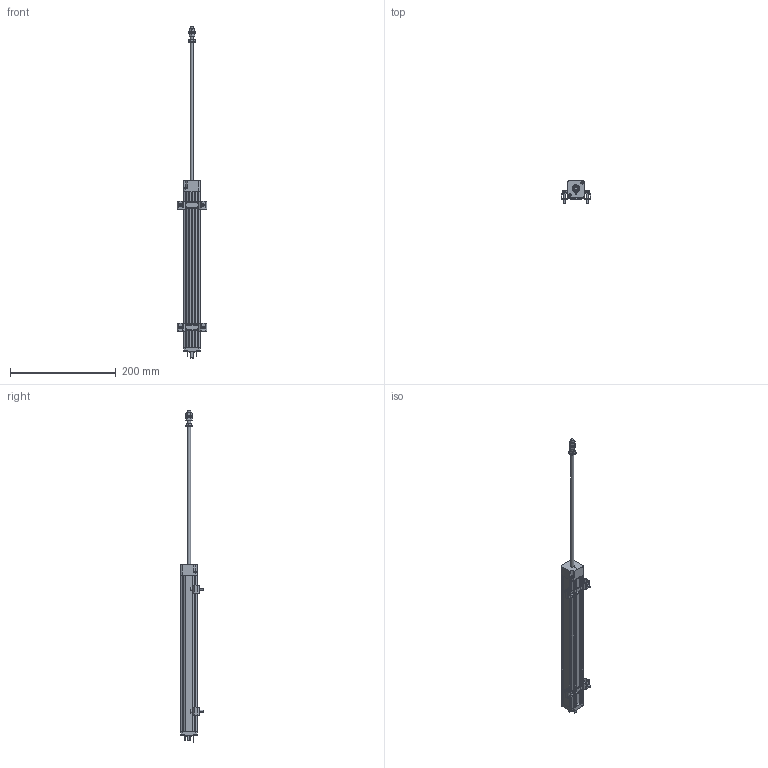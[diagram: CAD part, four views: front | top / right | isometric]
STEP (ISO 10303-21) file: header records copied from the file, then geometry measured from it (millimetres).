
FILE_DESCRIPTION (( 'STEP AP214' ), '1' );
FILE_NAME ('LWH_250.STEP', '2008-11-06T11:53:42', ( 'novotechnik' ), ( 'novotechnik' ), 'SwSTEP 2.0', 'SolidWorks 2008', '' );
FILE_SCHEMA (( 'AUTOMOTIVE_DESIGN' ));
Length unit declared in the file: millimetre
Products named in the file (4): LWH_-_Klammer_Standard; LWH_250_-_Schubstange_Standard; LWH_250_-_Gehaeuse_Standard; LWH_250
Assembly tree (4 placements, depth 2):
  LWH_250
    LWH_250_-_Schubstange_Standard
    LWH_250_-_Gehaeuse_Standard
    LWH_-_Klammer_Standard  x2
Bounding box: 56 x 43.08 x 629 mm (x, y, z)
Volume: 304771.4 mm3; surface area: 84297.6 mm2
Topology: 35 solids, 35 shells, 1066 faces, 2743 edges, 1770 vertices
Faces by surface type: plane 501, cylinder 392, cone 114, bspline 37, torus 22
Entity records: 39859 total; most frequent: CARTESIAN_POINT 7393, ORIENTED_EDGE 4638, DIRECTION 4515, EDGE_CURVE 2319, AXIS2_PLACEMENT_3D 1590, VERTEX_POINT 1500, LINE 1335, VECTOR 1335
